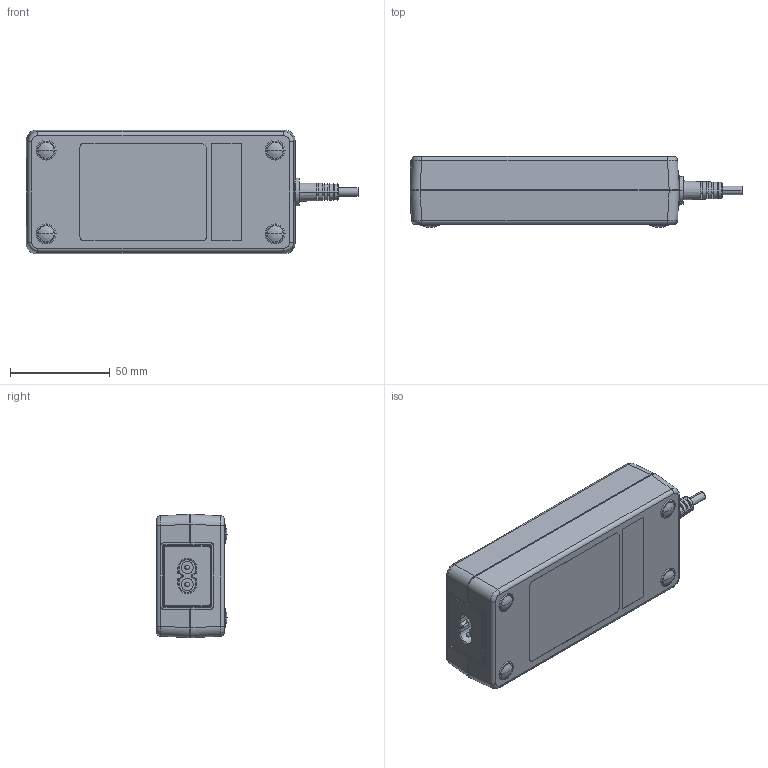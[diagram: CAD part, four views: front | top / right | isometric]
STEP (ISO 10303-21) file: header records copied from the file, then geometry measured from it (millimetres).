
FILE_DESCRIPTION((''),'2;1');
FILE_NAME('0_MDS-060BAS_ASM','2016-12-30T',('TERRY.LIN'),(''),'PRO/ENGINEER BY PARAMETRIC TECHNOLOGY CORPORATION, 2010280','PRO/ENGINEER BY PARAMETRIC TECHNOLOGY CORPORATION, 2010280','');
FILE_SCHEMA(('CONFIG_CONTROL_DESIGN'));
Length unit declared in the file: millimetre
Products named in the file (8): 0_MDS-060BAS_SKEL; 33062775_CASE-COVER; 33054308_CASE-CHASSIS; CASE-SR_60-ROUND; 1_CASE-ASSY_ASM; C8_ST-02F-KBR_WATERPROOF; 1_PWB-ASSY_ASM; 0_MDS-060BAS_ASM
Assembly tree (7 placements, depth 3):
  0_MDS-060BAS_ASM
    0_MDS-060BAS_SKEL
    1_CASE-ASSY_ASM
      33062775_CASE-COVER
      33054308_CASE-CHASSIS
      CASE-SR_60-ROUND
    1_PWB-ASSY_ASM
      C8_ST-02F-KBR_WATERPROOF
Bounding box: 166.7 x 35.6 x 62 mm (x, y, z)
Volume: 64858.5 mm3; surface area: 63808.2 mm2
Topology: 4 solids, 4 shells, 860 faces, 2272 edges, 1454 vertices
Faces by surface type: plane 459, cylinder 276, bspline 66, torus 26, sphere 18, cone 15
Entity records: 30712 total; most frequent: CARTESIAN_POINT 9471, ORIENTED_EDGE 4512, DIRECTION 4308, EDGE_CURVE 2256, AXIS2_PLACEMENT_3D 1499, VERTEX_POINT 1454, VECTOR 1310, LINE 1310
